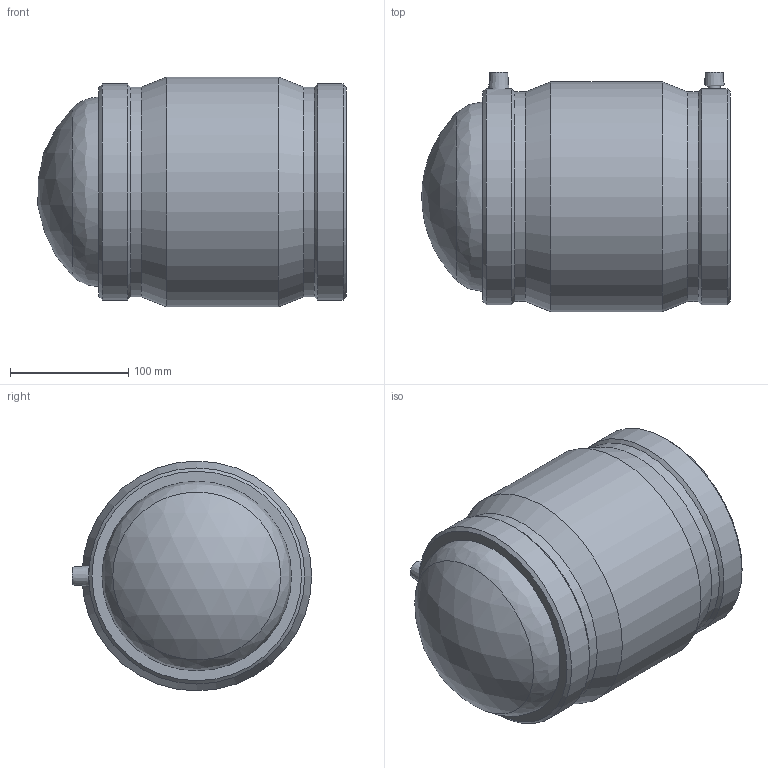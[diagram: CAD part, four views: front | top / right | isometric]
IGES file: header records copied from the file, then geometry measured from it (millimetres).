
Global section: file name: 491204160.ipt; native system: Autodesk Inventor 2015; preprocessor: unknown; author: KIM; date: 20171106.093758; units: millimetre
Bounding box: 260.36 x 202 x 194 mm (x, y, z)
Volume: 2679737.1 mm3; surface area: 294338.6 mm2
Topology: 2 solids, 3 shells, 40 faces, 84 edges, 58 vertices
Faces by surface type: plane 12, revolution 11, cylinder 8, cone 8, sphere 1
Full cylindrical faces by diameter (mm): 4 x2, 160 x1, 176.889 x2, 182.36 x2, 194 x1
